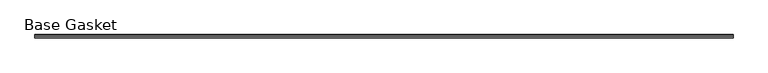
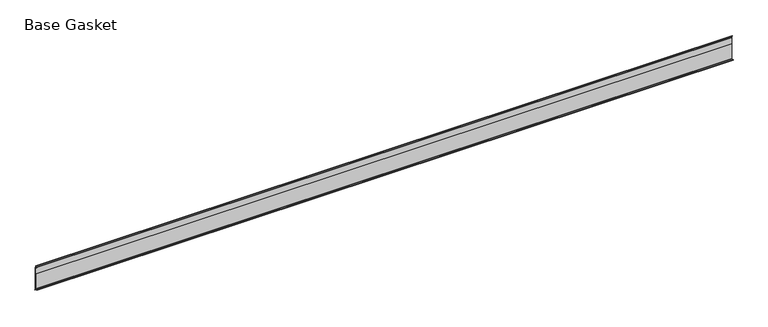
"""IFC4 building model written with IfcOpenShell, lengths in millimetres: furniture geometry, Gasket-Teknion-FHGB-AI_Healthcare-R2021 : Base Gasket."""

from ifc_helpers import new_model, si_unit, frame, origin, place, context, project, spatial, polyline, outline, extrude, source, transform, mapped, element, save


def base_gasket_65f8eacb(model_context):
    return source(origin(), model_context, "Body", "SweptSolid", [
        extrude(outline(polyline([(3.7283812, 98.4568417), (3.7283812, 4.3498477), (7.4222115, 0.6560174), (7.8482342, 0.0), (6.8281054, 0.3520979), (2.2043812, 4.3498477), (2.1334222, 6.3818476), (-6.2405171, 6.3818476), (-6.2405171, 7.9398773), (2.2043812, 7.9398773), (2.2043812, 71.4693447), (1.4106313, 71.4693447), (1.4106313, 96.8693477), (2.2043812, 96.8693477), (2.2043812, 98.4568417), (0.6755308, 104.4162708), (0.6755308, 105.2002997), (1.1891543, 104.587663), (3.7283812, 98.4568417)])), frame((-1527.8982117, 0.0, 0.0), z_axis=(1.0, 0.0, 0.0), x_axis=(0.0, 1.0, 0.0)), (0.0, 0.0, 1.0), 2804.0635591),
    ])


if __name__ == "__main__":
    model = new_model("IFC4")
    model_context = context("Model", 3, world=origin())
    ifc_project = project(units=[si_unit("LENGTHUNIT", "METRE", prefix="MILLI")], contexts=[model_context])
    site = spatial("IfcSite", under=ifc_project)
    building = spatial("IfcBuilding", under=site)
    placement = place(None, origin())
    base_gasket_shape = base_gasket_65f8eacb(model_context)
    element("IfcFurniture", 1, ObjectType="Gasket-Teknion-FHGB-AI_Healthcare-R2021 : Base Gasket", at=placement, inside=building, context=model_context, shape_type="MappedRepresentation", body=[
        mapped(base_gasket_shape, transform((0.0, 0.0, 0.0), x_axis=(1.0, 0.0, 0.0), y_axis=(0.0, 1.0, 0.0), z_axis=(0.0, 0.0, 1.0))),
    ])
    save(model, "model.ifc")
